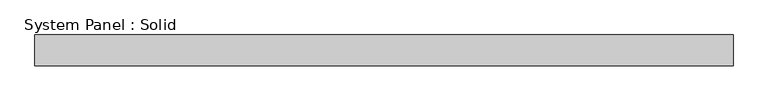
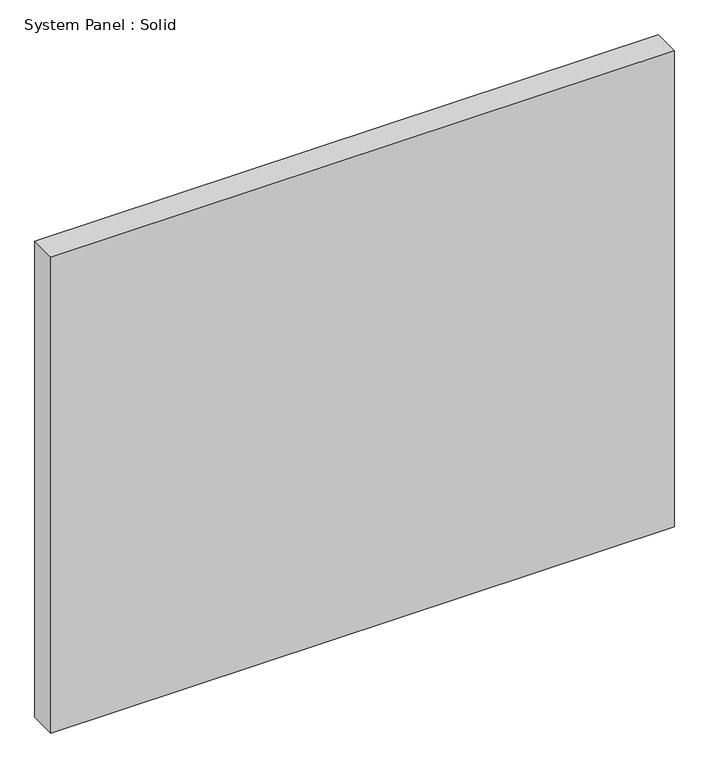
"""IFC4 building model written with IfcOpenShell, lengths in millimetres: plate geometry, System Panel : Solid."""

from ifc_helpers import new_model, si_unit, origin, origin_with_axes, place, context, project, spatial, polyline, outline, extrude, source, transform, mapped, element, save


def system_panel_solid_a5e4950d(model_context):
    return source(origin(), model_context, "Body", "SweptSolid", [
        extrude(outline(polyline([(716.474875, -19.05), (-716.474875, -19.05), (-716.474875, 44.45), (716.474875, 44.45), (716.474875, -19.05)])), origin_with_axes(), (0.0, 0.0, 1.0), 1155.7),
    ])


if __name__ == "__main__":
    model = new_model("IFC4")
    model_context = context("Model", 3, world=origin())
    ifc_project = project(units=[si_unit("LENGTHUNIT", "METRE", prefix="MILLI")], contexts=[model_context])
    site = spatial("IfcSite", under=ifc_project)
    building = spatial("IfcBuilding", under=site)
    placement = place(None, origin())
    system_panel_solid_shape = system_panel_solid_a5e4950d(model_context)
    element("IfcPlate", 1, ObjectType="System Panel : Solid", at=placement, inside=building, context=model_context, shape_type="MappedRepresentation", body=[
        mapped(system_panel_solid_shape, transform((0.0, 0.0, 0.0), x_axis=(1.0, 0.0, 0.0), y_axis=(0.0, 1.0, 0.0), z_axis=(0.0, 0.0, 1.0))),
    ])
    save(model, "model.ifc")
